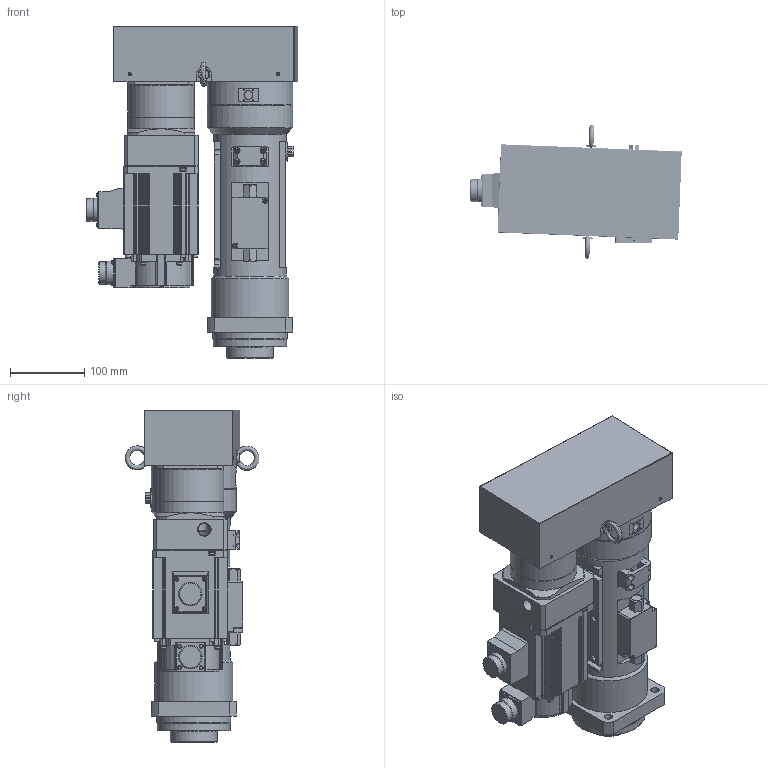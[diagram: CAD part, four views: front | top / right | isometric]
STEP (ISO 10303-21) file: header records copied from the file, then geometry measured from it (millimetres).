
FILE_DESCRIPTION( ('This file contains a STEP AP42 implementation' ,'as created by ZW3D STEP Interface translator.') ,'2;1' );
FILE_NAME( 'OACIS-DS-P010-100-200-A6V200_20.51.stp' ,'26 416.11 944', (''), ('ZWCAD Software Co.'), 'Version 1.0', 'ZW3D to STEP translator', '' );
FILE_SCHEMA(('AUTOMOTIVE_DESIGN { 1 0 10303 214 1 1 1 1 }'));
Length unit declared in the file: millimetre
Products named in the file (1): 0
Bounding box: 285.18 x 180.78 x 448 mm (x, y, z)
Volume: 4010247.5 mm3; surface area: 988077.2 mm2
Topology: 42 solids, 46 shells, 1797 faces, 4561 edges, 3019 vertices
Faces by surface type: plane 742, cylinder 733, cone 217, torus 74, sphere 21, bspline 10
Full cylindrical faces by diameter (mm): 1.6 x8, 2.459 x5, 2.75 x4, 3.2 x5, 3.3 x66, 4.2 x4, 4.3 x21, 4.5 x4, 5 x32, 5.6 x5, 6.5 x4, 6.6 x8, 6.647 x5, 6.8 x36, 7 x12, 8 x37, 8.4 x8, 8.5 x17, 9 x4, 11 x12, 12 x1, 15 x8, 15.5 x2, 16.5 x2, 18 x3, 18.917 x2, 19 x2, 20 x5, 22 x1, 23 x1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
Entity records: 59744 total; most frequent: CARTESIAN_POINT 12633, DIRECTION 9929, ORIENTED_EDGE 8936, EDGE_CURVE 4481, AXIS2_PLACEMENT_3D 3808, VERTEX_POINT 2976, VECTOR 2313, LINE 2313
